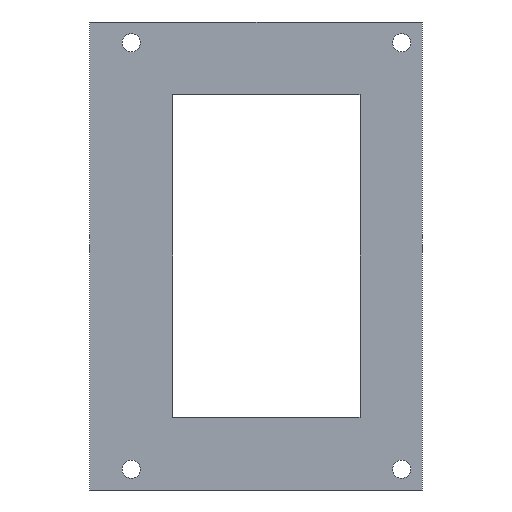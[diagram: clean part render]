
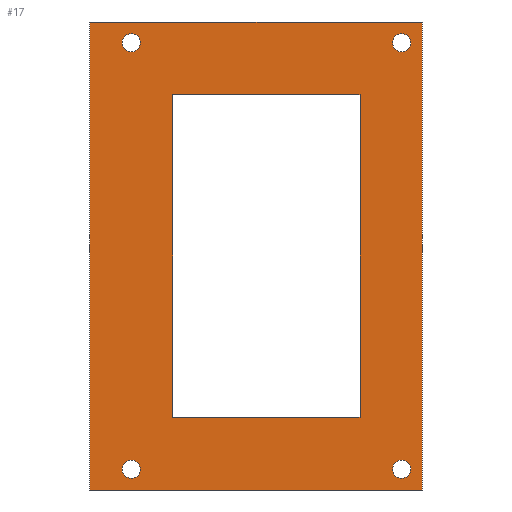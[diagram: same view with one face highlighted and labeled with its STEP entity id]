
A CAD part, left-side view. The second image highlights one B-rep face of the part: STEP entity #17.
In plain terms, the highlighted planar face has unit normal (-1, 0, 0).
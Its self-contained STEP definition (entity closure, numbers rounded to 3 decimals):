
#17 = ADVANCED_FACE('',(#18,#52,#63,#74,#85,#119),#130,.F.);
#18 = FACE_BOUND('',#19,.F.);
#19 = EDGE_LOOP('',(#20,#30,#38,#46));
#20 = ORIENTED_EDGE('',*,*,#21,.F.);
#21 = EDGE_CURVE('',#22,#24,#26,.T.);
#22 = VERTEX_POINT('',#23);
#23 = CARTESIAN_POINT('',(-1.,4.,12.));
#24 = VERTEX_POINT('',#25);
#25 = CARTESIAN_POINT('',(-1.,4.,102.));
#26 = LINE('',#27,#28);
#27 = CARTESIAN_POINT('',(-1.,4.,12.));
#28 = VECTOR('',#29,1.);
#29 = DIRECTION('',(0.,0.,1.));
#30 = ORIENTED_EDGE('',*,*,#31,.T.);
#31 = EDGE_CURVE('',#22,#32,#34,.T.);
#32 = VERTEX_POINT('',#33);
#33 = CARTESIAN_POINT('',(-1.,68.,12.));
#34 = LINE('',#35,#36);
#35 = CARTESIAN_POINT('',(-1.,4.,12.));
#36 = VECTOR('',#37,1.);
#37 = DIRECTION('',(0.,1.,0.));
#38 = ORIENTED_EDGE('',*,*,#39,.T.);
#39 = EDGE_CURVE('',#32,#40,#42,.T.);
#40 = VERTEX_POINT('',#41);
#41 = CARTESIAN_POINT('',(-1.,68.,102.));
#42 = LINE('',#43,#44);
#43 = CARTESIAN_POINT('',(-1.,68.,12.));
#44 = VECTOR('',#45,1.);
#45 = DIRECTION('',(0.,0.,1.));
#46 = ORIENTED_EDGE('',*,*,#47,.F.);
#47 = EDGE_CURVE('',#24,#40,#48,.T.);
#48 = LINE('',#49,#50);
#49 = CARTESIAN_POINT('',(-1.,4.,102.));
#50 = VECTOR('',#51,1.);
#51 = DIRECTION('',(0.,1.,0.));
#52 = FACE_BOUND('',#53,.F.);
#53 = EDGE_LOOP('',(#54));
#54 = ORIENTED_EDGE('',*,*,#55,.F.);
#55 = EDGE_CURVE('',#56,#56,#58,.T.);
#56 = VERTEX_POINT('',#57);
#57 = CARTESIAN_POINT('',(-1.,60.,17.75));
#58 = CIRCLE('',#59,1.75);
#59 = AXIS2_PLACEMENT_3D('',#60,#61,#62);
#60 = CARTESIAN_POINT('',(-1.,60.,16.));
#61 = DIRECTION('',(1.,0.,-0.));
#62 = DIRECTION('',(0.,0.,1.));
#63 = FACE_BOUND('',#64,.F.);
#64 = EDGE_LOOP('',(#65));
#65 = ORIENTED_EDGE('',*,*,#66,.F.);
#66 = EDGE_CURVE('',#67,#67,#69,.T.);
#67 = VERTEX_POINT('',#68);
#68 = CARTESIAN_POINT('',(-1.,60.,99.75));
#69 = CIRCLE('',#70,1.75);
#70 = AXIS2_PLACEMENT_3D('',#71,#72,#73);
#71 = CARTESIAN_POINT('',(-1.,60.,98.));
#72 = DIRECTION('',(1.,0.,-0.));
#73 = DIRECTION('',(0.,0.,1.));
#74 = FACE_BOUND('',#75,.F.);
#75 = EDGE_LOOP('',(#76));
#76 = ORIENTED_EDGE('',*,*,#77,.F.);
#77 = EDGE_CURVE('',#78,#78,#80,.T.);
#78 = VERTEX_POINT('',#79);
#79 = CARTESIAN_POINT('',(-1.,8.,17.75));
#80 = CIRCLE('',#81,1.75);
#81 = AXIS2_PLACEMENT_3D('',#82,#83,#84);
#82 = CARTESIAN_POINT('',(-1.,8.,16.));
#83 = DIRECTION('',(1.,0.,-0.));
#84 = DIRECTION('',(0.,0.,1.));
#85 = FACE_BOUND('',#86,.F.);
#86 = EDGE_LOOP('',(#87,#97,#105,#113));
#87 = ORIENTED_EDGE('',*,*,#88,.T.);
#88 = EDGE_CURVE('',#89,#91,#93,.T.);
#89 = VERTEX_POINT('',#90);
#90 = CARTESIAN_POINT('',(-1.,52.,26.));
#91 = VERTEX_POINT('',#92);
#92 = CARTESIAN_POINT('',(-1.,16.,26.));
#93 = LINE('',#94,#95);
#94 = CARTESIAN_POINT('',(-1.,10.,26.));
#95 = VECTOR('',#96,1.);
#96 = DIRECTION('',(0.,-1.,0.));
#97 = ORIENTED_EDGE('',*,*,#98,.T.);
#98 = EDGE_CURVE('',#91,#99,#101,.T.);
#99 = VERTEX_POINT('',#100);
#100 = CARTESIAN_POINT('',(-1.,16.,88.));
#101 = LINE('',#102,#103);
#102 = CARTESIAN_POINT('',(-1.,16.,19.));
#103 = VECTOR('',#104,1.);
#104 = DIRECTION('',(0.,0.,1.));
#105 = ORIENTED_EDGE('',*,*,#106,.F.);
#106 = EDGE_CURVE('',#107,#99,#109,.T.);
#107 = VERTEX_POINT('',#108);
#108 = CARTESIAN_POINT('',(-1.,52.,88.));
#109 = LINE('',#110,#111);
#110 = CARTESIAN_POINT('',(-1.,10.,88.));
#111 = VECTOR('',#112,1.);
#112 = DIRECTION('',(0.,-1.,0.));
#113 = ORIENTED_EDGE('',*,*,#114,.F.);
#114 = EDGE_CURVE('',#89,#107,#115,.T.);
#115 = LINE('',#116,#117);
#116 = CARTESIAN_POINT('',(-1.,52.,19.));
#117 = VECTOR('',#118,1.);
#118 = DIRECTION('',(0.,0.,1.));
#119 = FACE_BOUND('',#120,.F.);
#120 = EDGE_LOOP('',(#121));
#121 = ORIENTED_EDGE('',*,*,#122,.F.);
#122 = EDGE_CURVE('',#123,#123,#125,.T.);
#123 = VERTEX_POINT('',#124);
#124 = CARTESIAN_POINT('',(-1.,8.,99.75));
#125 = CIRCLE('',#126,1.75);
#126 = AXIS2_PLACEMENT_3D('',#127,#128,#129);
#127 = CARTESIAN_POINT('',(-1.,8.,98.));
#128 = DIRECTION('',(1.,0.,-0.));
#129 = DIRECTION('',(0.,0.,1.));
#130 = PLANE('',#131);
#131 = AXIS2_PLACEMENT_3D('',#132,#133,#134);
#132 = CARTESIAN_POINT('',(-1.,4.,12.));
#133 = DIRECTION('',(1.,0.,0.));
#134 = DIRECTION('',(0.,0.,1.));
